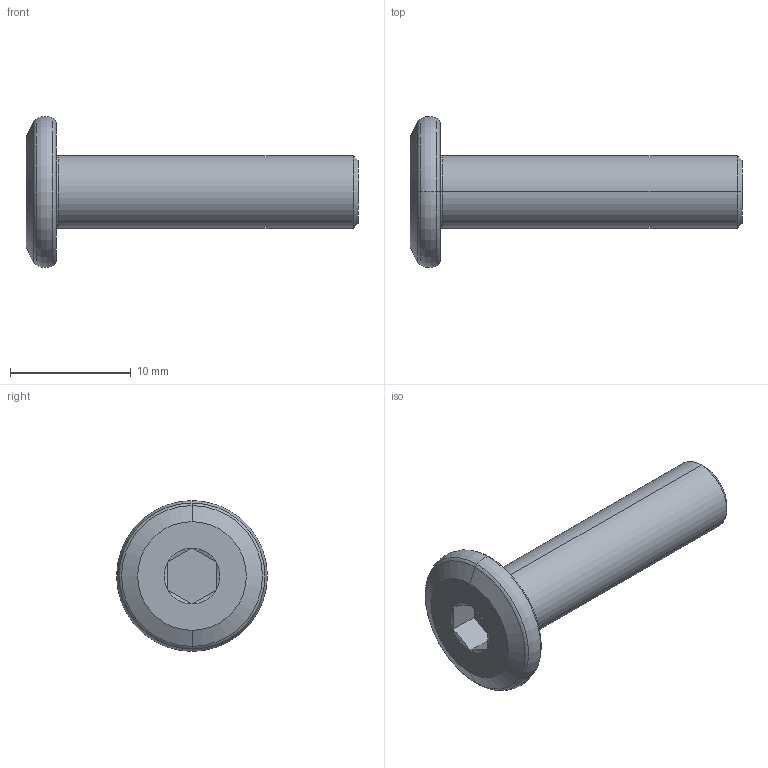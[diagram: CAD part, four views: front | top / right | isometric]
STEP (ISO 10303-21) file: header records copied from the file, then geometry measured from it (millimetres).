
FILE_DESCRIPTION (( 'STEP AP203' ), '1' );
FILE_NAME ('LGD-304D-M6x25.STEP', '2026-08-13T07:56:19', ( '' ), ( '' ), 'SwSTEP 2.0', 'SolidWorks 2020', '' );
FILE_SCHEMA (( 'CONFIG_CONTROL_DESIGN' ));
Length unit declared in the file: millimetre
Products named in the file (1): LGD-304D-M6x25
Bounding box: 27.5 x 12.49 x 12.49 mm (x, y, z)
Volume: 944.8 mm3; surface area: 798.8 mm2
Topology: 1 solids, 1 shells, 30 faces, 56 edges, 30 vertices
Faces by surface type: cone 10, plane 10, torus 8, cylinder 2
Entity records: 835 total; most frequent: CARTESIAN_POINT 151, DIRECTION 144, ORIENTED_EDGE 112, AXIS2_PLACEMENT_3D 63, EDGE_CURVE 56, EDGE_LOOP 32, CIRCLE 32, FACE_OUTER_BOUND 30
